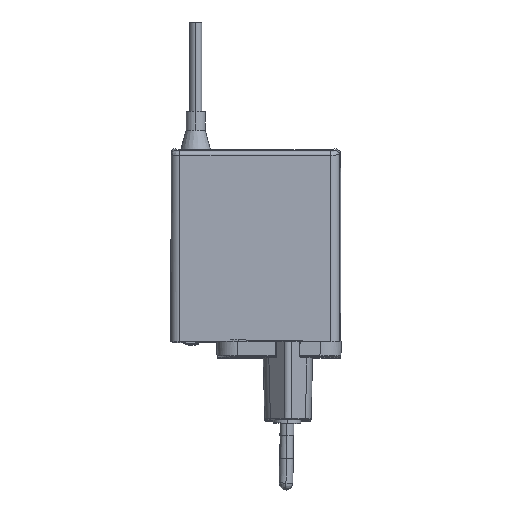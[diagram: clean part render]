
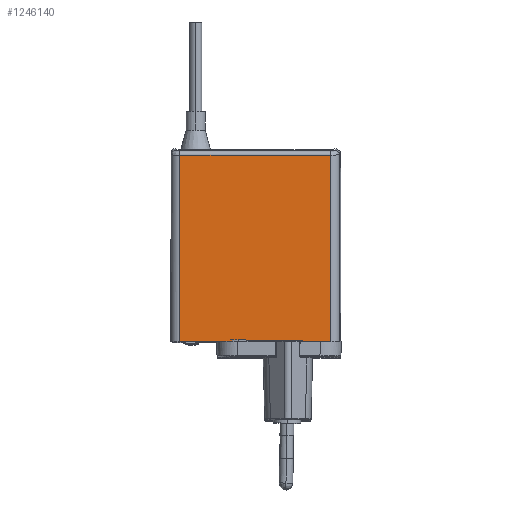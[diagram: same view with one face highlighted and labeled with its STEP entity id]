
A CAD part, top view. The second image highlights one B-rep face of the part: STEP entity #1246140.
In plain terms, the highlighted planar face has unit normal (0, 0.002, 1) as drawn and (-1, 0, -0.002) by its records, which use the part's own axes.
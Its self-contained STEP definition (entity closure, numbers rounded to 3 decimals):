
#1180810=CARTESIAN_POINT('',(-40.171,11.392,
0.));
#1180820=VERTEX_POINT('',#1180810);
#1180850=CARTESIAN_POINT('',(-40.171,11.392,
0.));
#1180860=DIRECTION('',(0.,1.,0.));
#1180870=VECTOR('',#1180860,1.);
#1180880=LINE('',#1180850,#1180870);
#1180890=CARTESIAN_POINT('',(-40.171,54.608,
0.));
#1180900=VERTEX_POINT('',#1180890);
#1180910=EDGE_CURVE('',#1180820,#1180900,#1180880,.T.);
#1243670=CARTESIAN_POINT('',(-40.077,54.514,
-53.331));
#1243680=VERTEX_POINT('',#1243670);
#1243880=CARTESIAN_POINT('',(-40.077,11.486,
-53.331));
#1243890=DIRECTION('',(0.,1.,0.));
#1243900=VECTOR('',#1243890,1.);
#1243910=LINE('',#1243880,#1243900);
#1243920=CARTESIAN_POINT('',(-40.077,11.486,
-53.331));
#1243930=VERTEX_POINT('',#1243920);
#1243940=EDGE_CURVE('',#1243930,#1243680,#1243910,.T.);
#1245890=CARTESIAN_POINT('',(-40.077,11.486,
-53.331));
#1245900=DIRECTION('',(-0.002,-0.002,
1.));
#1245910=VECTOR('',#1245900,1.);
#1245920=LINE('',#1245890,#1245910);
#1245930=EDGE_CURVE('',#1243930,#1180820,#1245920,.T.);
#1245980=CARTESIAN_POINT('',(-40.171,33.,
0.));
#1245990=DIRECTION('',(-1.,0.,
-0.002));
#1246000=DIRECTION('',(-0.002,0.,1.));
#1246010=AXIS2_PLACEMENT_3D('',#1245980,#1245990,#1246000);
#1246020=PLANE('',#1246010);
#1246030=ORIENTED_EDGE('',*,*,#1180910,.T.);
#1246040=ORIENTED_EDGE('',*,*,#1245930,.T.);
#1246050=ORIENTED_EDGE('',*,*,#1243940,.F.);
#1246060=CARTESIAN_POINT('',(-40.171,54.608,
0.));
#1246070=DIRECTION('',(0.002,-0.002,
-1.));
#1246080=VECTOR('',#1246070,1.);
#1246090=LINE('',#1246060,#1246080);
#1246100=EDGE_CURVE('',#1180900,#1243680,#1246090,.T.);
#1246110=ORIENTED_EDGE('',*,*,#1246100,.T.);
#1246120=EDGE_LOOP('',(#1246110,#1246050,#1246040,#1246030));
#1246130=FACE_OUTER_BOUND('',#1246120,.T.);
#1246140=ADVANCED_FACE('',(#1246130),#1246020,.T.);
